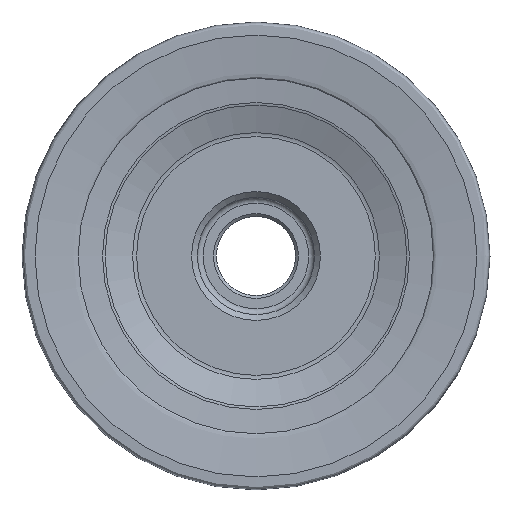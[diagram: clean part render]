
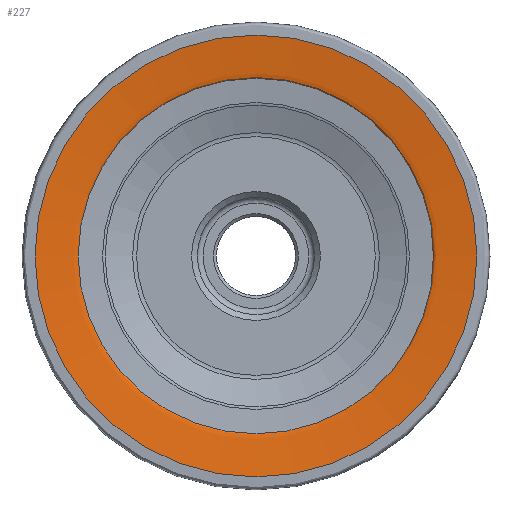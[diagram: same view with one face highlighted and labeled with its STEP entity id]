
A CAD part, left-side view. The second image highlights one B-rep face of the part: STEP entity #227.
In plain terms, the highlighted face is a revolution surface.
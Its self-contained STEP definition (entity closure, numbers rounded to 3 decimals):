
#71=SURFACE_OF_REVOLUTION('',#311,#73);
#73=AXIS1_PLACEMENT('',#1694,#1190);
#227=ADVANCED_FACE('',(#372,#373),#71,.T.);
#311=B_SPLINE_CURVE_WITH_KNOTS('',3,(#1668,#1669,#1670,#1671,#1672,#1673,
#1674,#1675,#1676,#1677,#1678,#1679,#1680,#1681,#1682,#1683,#1684,#1685,
#1686,#1687,#1688,#1689,#1690,#1691,#1692,#1693),.UNSPECIFIED.,.F.,.F.,
(4,2,2,2,2,2,2,2,2,2,2,2,4),(0.,0.25,0.281,0.297,
0.313,0.375,0.5,0.75,0.875,0.906,
0.938,0.969,1.),.UNSPECIFIED.);
#372=FACE_BOUND('',#458,.T.);
#373=FACE_BOUND('',#459,.T.);
#458=EDGE_LOOP('',(#646));
#459=EDGE_LOOP('',(#647));
#646=ORIENTED_EDGE('',*,*,#811,.T.);
#647=ORIENTED_EDGE('',*,*,#810,.T.);
#716=VERTEX_POINT('',#1636);
#717=VERTEX_POINT('',#1638);
#810=EDGE_CURVE('',#716,#716,#856,.T.);
#811=EDGE_CURVE('',#717,#717,#857,.T.);
#856=CIRCLE('',#956,37.735);
#857=CIRCLE('',#957,32.785);
#956=AXIS2_PLACEMENT_3D('',#1635,#1185,#1186);
#957=AXIS2_PLACEMENT_3D('',#1637,#1187,#1188);
#1185=DIRECTION('',(-1.,0.,0.));
#1186=DIRECTION('',(0.,-1.,0.));
#1187=DIRECTION('',(1.,0.,0.));
#1188=DIRECTION('',(0.,-1.,0.));
#1190=DIRECTION('',(-1.,0.,0.));
#1635=CARTESIAN_POINT('',(0.153,0.,0.));
#1636=CARTESIAN_POINT('',(0.153,-37.735,0.));
#1637=CARTESIAN_POINT('',(17.521,0.,0.));
#1638=CARTESIAN_POINT('',(17.521,-32.785,0.));
#1668=CARTESIAN_POINT('',(0.153,37.735,0.));
#1669=CARTESIAN_POINT('',(0.4,35.625,0.));
#1670=CARTESIAN_POINT('',(0.652,33.517,0.));
#1671=CARTESIAN_POINT('',(0.932,31.144,0.));
#1672=CARTESIAN_POINT('',(0.92,30.868,0.));
#1673=CARTESIAN_POINT('',(1.09,30.5,0.));
#1674=CARTESIAN_POINT('',(1.183,30.39,0.));
#1675=CARTESIAN_POINT('',(1.426,30.272,0.));
#1676=CARTESIAN_POINT('',(1.567,30.284,0.));
#1677=CARTESIAN_POINT('',(2.237,30.293,0.));
#1678=CARTESIAN_POINT('',(2.773,30.301,0.));
#1679=CARTESIAN_POINT('',(4.38,30.326,0.));
#1680=CARTESIAN_POINT('',(5.451,30.344,0.));
#1681=CARTESIAN_POINT('',(8.665,30.404,0.));
#1682=CARTESIAN_POINT('',(10.807,30.453,0.));
#1683=CARTESIAN_POINT('',(14.021,30.539,0.));
#1684=CARTESIAN_POINT('',(15.092,30.57,0.));
#1685=CARTESIAN_POINT('',(16.43,30.612,0.));
#1686=CARTESIAN_POINT('',(16.707,30.581,0.));
#1687=CARTESIAN_POINT('',(17.218,30.722,0.));
#1688=CARTESIAN_POINT('',(17.435,30.932,0.));
#1689=CARTESIAN_POINT('',(17.582,31.441,0.));
#1690=CARTESIAN_POINT('',(17.536,31.717,0.));
#1691=CARTESIAN_POINT('',(17.53,32.251,0.));
#1692=CARTESIAN_POINT('',(17.534,32.518,0.));
#1693=CARTESIAN_POINT('',(17.521,32.785,0.));
#1694=CARTESIAN_POINT('',(0.,0.,0.));
